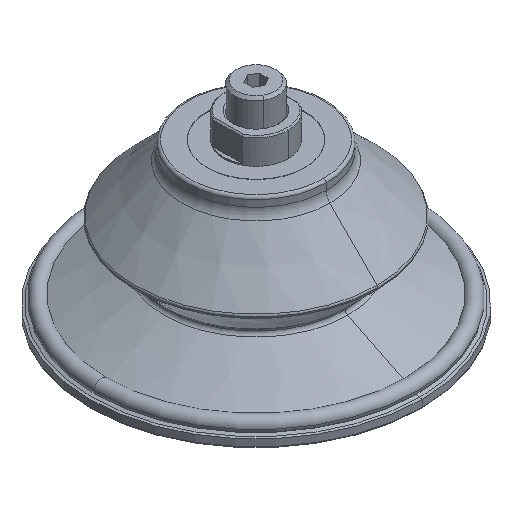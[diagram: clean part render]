
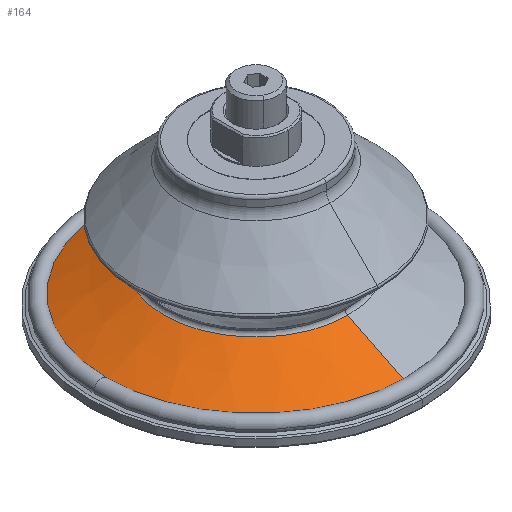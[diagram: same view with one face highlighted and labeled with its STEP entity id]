
A CAD part, isometric view. The second image highlights one B-rep face of the part: STEP entity #164.
In plain terms, the highlighted conical face has half-angle 64 degrees and reference radius 35.361 mm.
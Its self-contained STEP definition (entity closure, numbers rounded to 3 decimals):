
#164=ADVANCED_FACE('NONE',(#388),#389,.T.);
#388=FACE_OUTER_BOUND('',#679,.T.);
#389=CONICAL_SURFACE('',#680,35.361,1.117);
#679=EDGE_LOOP('',(#1088,#1089,#1090,#1091,#1092));
#680=AXIS2_PLACEMENT_3D('',#1093,#1094,#1095);
#1088=ORIENTED_EDGE('',*,*,#1679,.T.);
#1089=ORIENTED_EDGE('',*,*,#1761,.T.);
#1090=ORIENTED_EDGE('',*,*,#1655,.F.);
#1091=ORIENTED_EDGE('',*,*,#1669,.F.);
#1092=ORIENTED_EDGE('',*,*,#1762,.F.);
#1093=CARTESIAN_POINT('',(0.,0.,-50.757));
#1094=DIRECTION('',(0.,0.,-1.0));
#1095=DIRECTION('',(0.,-1.0,0.));
#1655=EDGE_CURVE('NONE',#1946,#1948,#1949,.T.);
#1669=EDGE_CURVE('NONE',#1967,#1946,#1969,.T.);
#1679=EDGE_CURVE('NONE',#1980,#1985,#1987,.T.);
#1761=EDGE_CURVE('NONE',#1985,#1948,#2109,.T.);
#1762=EDGE_CURVE('NONE',#1980,#1967,#2110,.T.);
#1946=VERTEX_POINT('NONE',#2352);
#1948=VERTEX_POINT('NONE',#2354);
#1949=CIRCLE('',#2355,56.983);
#1967=VERTEX_POINT('NONE',#2373);
#1969=CIRCLE('',#2375,56.983);
#1980=VERTEX_POINT('NONE',#2390);
#1985=VERTEX_POINT('NONE',#2395);
#1987=CIRCLE('',#2397,35.361);
#2109=LINE('',#2537,#2538);
#2110=LINE('',#2539,#2540);
#2352=CARTESIAN_POINT('',(-56.983,0.,-61.303));
#2354=CARTESIAN_POINT('',(0.,56.983,-61.303));
#2355=AXIS2_PLACEMENT_3D('',#2846,#2847,#2848);
#2373=CARTESIAN_POINT('',(0.,-56.983,-61.303));
#2375=AXIS2_PLACEMENT_3D('',#2879,#2880,#2881);
#2390=CARTESIAN_POINT('',(0.,-35.361,-50.757));
#2395=CARTESIAN_POINT('',(0.,35.361,-50.757));
#2397=AXIS2_PLACEMENT_3D('',#2898,#2899,#2900);
#2537=CARTESIAN_POINT('',(0.,35.361,-50.757));
#2538=VECTOR('',#3051,1000.0);
#2539=CARTESIAN_POINT('',(0.,-35.361,-50.757));
#2540=VECTOR('',#3052,1000.0);
#2846=CARTESIAN_POINT('',(0.,0.,-61.303));
#2847=DIRECTION('',(0.,0.,-1.0));
#2848=DIRECTION('',(0.,-1.0,0.));
#2879=CARTESIAN_POINT('',(0.,0.,-61.303));
#2880=DIRECTION('',(0.,0.,-1.0));
#2881=DIRECTION('',(0.,-1.0,0.));
#2898=CARTESIAN_POINT('',(0.,0.,-50.757));
#2899=DIRECTION('',(0.,0.,-1.0));
#2900=DIRECTION('',(0.,-1.0,0.));
#3051=DIRECTION('',(0.,0.899,-0.438));
#3052=DIRECTION('',(0.,-0.899,-0.438));
